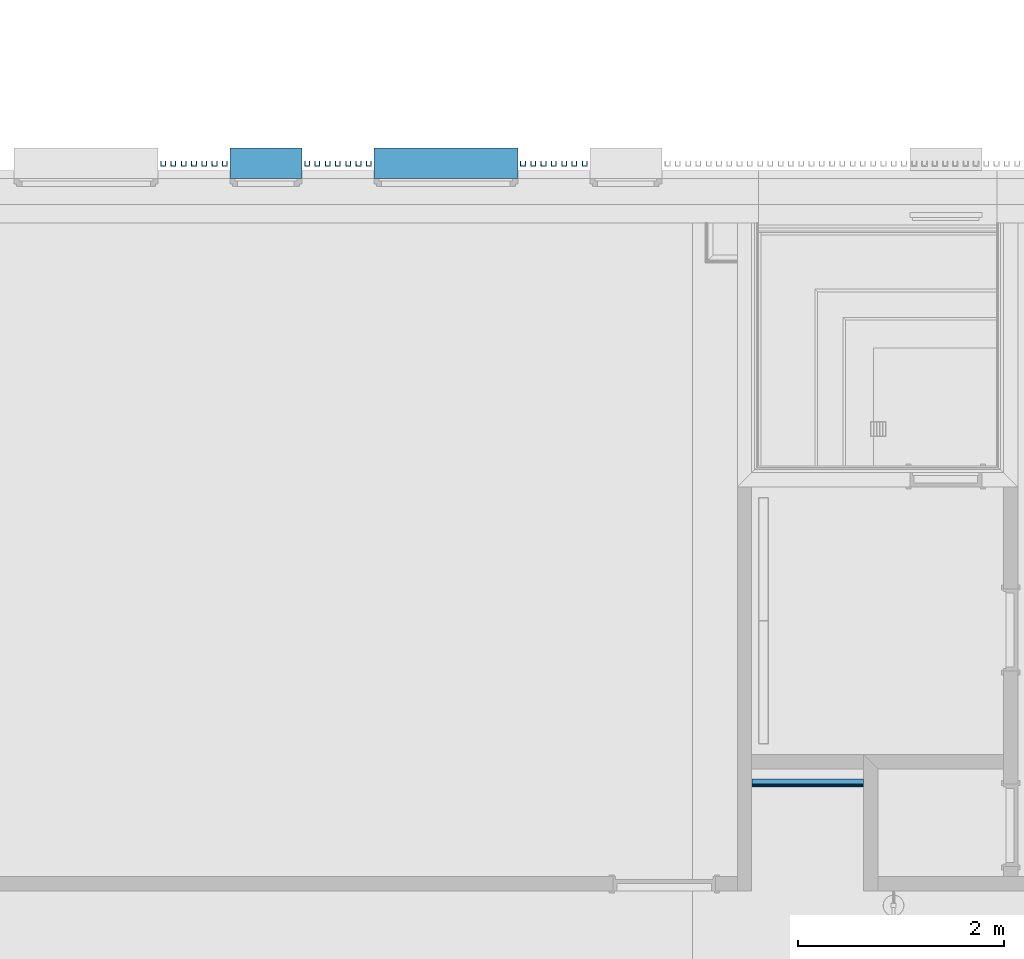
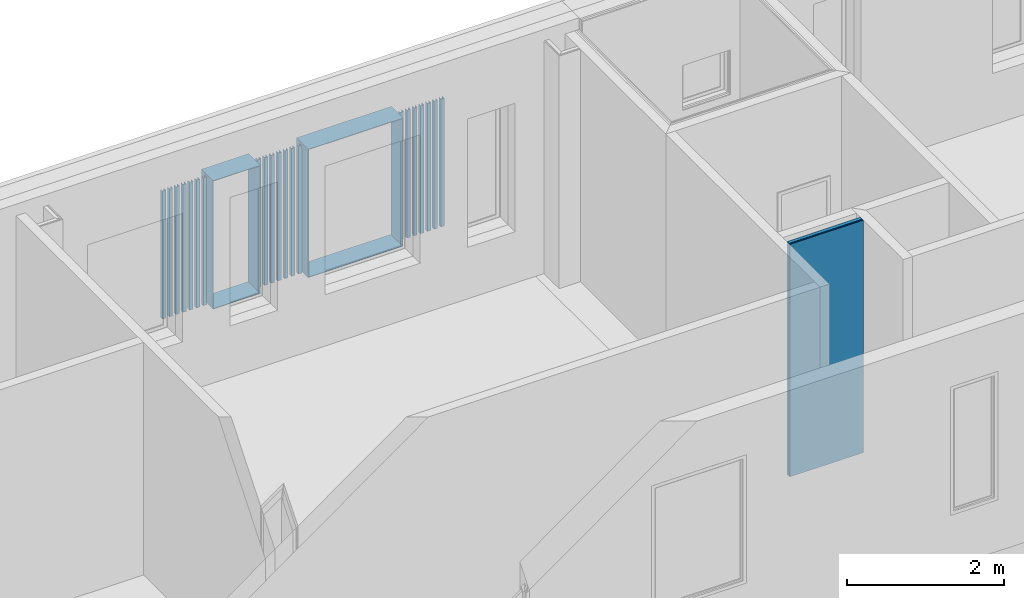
# One storey, part 26 of 100: 23 discrete accessories, 3 building element parts, 1 element without a shape of its own.
"""IFC2X3 building model written with IfcOpenShell, lengths in millimetres."""

from ifc_helpers import new_model, entity, si_unit, converted_unit, derived_unit, money_unit, direction, frame, origin_with_axes, place, context, subcontext, project, spatial, polyline, outline, extrude, faceted_brep, source, transform, mapped, material, type_object, element, aggregate, save


model = new_model("IFC2X3")

# Units and contexts
model_context = context("Model", 3, precision=0.01, world=origin_with_axes(), true_north=direction((0.0, 1.0)))
body_context = subcontext(model_context, "Body", "Model", "MODEL_VIEW")
ifc_project = project(units=[si_unit("LENGTHUNIT", "METRE", prefix="MILLI"), si_unit("AREAUNIT", "SQUARE_METRE"), si_unit("VOLUMEUNIT", "CUBIC_METRE"), converted_unit("PLANEANGLEUNIT", "DEGREE", entity("IfcPlaneAngleMeasure", 0.0174532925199), si_unit("PLANEANGLEUNIT", "RADIAN"), dimensions=[0, 0, 0, 0, 0, 0, 0]), si_unit("SOLIDANGLEUNIT", "STERADIAN"), money_unit("EUR"), converted_unit("TIMEUNIT", "Year", entity("IfcTimeMeasure", 31556926.0), si_unit("TIMEUNIT", "SECOND"), dimensions=[0, 0, 1, 0, 0, 0, 0]), si_unit("MASSUNIT", "GRAM", prefix="KILO"), si_unit("THERMODYNAMICTEMPERATUREUNIT", "DEGREE_CELSIUS"), si_unit("LUMINOUSINTENSITYUNIT", "LUMEN"), si_unit("ENERGYUNIT", "JOULE", prefix="MEGA"), derived_unit("THERMALCONDUCTANCEUNIT", [(si_unit("POWERUNIT", "WATT"), 1), (si_unit("LENGTHUNIT", "METRE"), -1), (si_unit("THERMODYNAMICTEMPERATUREUNIT", "KELVIN"), -1)]), derived_unit("SPECIFICHEATCAPACITYUNIT", [(si_unit("ENERGYUNIT", "JOULE"), 1), (si_unit("MASSUNIT", "GRAM", prefix="KILO"), -1), (si_unit("THERMODYNAMICTEMPERATUREUNIT", "KELVIN"), -1)]), derived_unit("MASSDENSITYUNIT", [(si_unit("MASSUNIT", "GRAM", prefix="KILO"), 1), (si_unit("VOLUMEUNIT", "CUBIC_METRE"), -1)])], contexts=[model_context])

# Site, building, storey
site_placement = place(None, origin_with_axes())
site = spatial("IfcSite", under=ifc_project, at=site_placement, Name="Politse- ja Piirivalveameti ning Päästeameti ühishoone", CompositionType="ELEMENT")
building_placement = place(site_placement, origin_with_axes())
building = spatial("IfcBuilding", under=site, at=building_placement, Name="Politse- ja Piirivalveameti ning Päästeameti ühishoone", CompositionType="ELEMENT")
storey_placement = place(building_placement, frame((0.0, 0.0, 3800.0), z_axis=(0.0, 0.0, 1.0), x_axis=(1.0, 0.0, 0.0)))
storey = spatial("IfcBuildingStorey", under=building, at=storey_placement, Name="Teine korrus", CompositionType="ELEMENT", Elevation=3800.0)

# Discrete accessories
ifc_material_1 = material(Name="SV-01_Krohv - Kips")
discrete_accessory_type_1 = type_object("IfcDiscreteAccessoryType", Name="Architrave 01 23")
shared_shape_1 = source(origin_with_axes(), body_context, "Body", "Brep", [
    faceted_brep([(350.0, 0.0, -10.0), (350.0, -300.182356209, -10.0), (-350.0, -300.182356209, -10.0), (-350.0, 0.0, -10.0), (340.0, 0.0, 0.0), (340.0, -300.182356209, 0.0), (-340.0, -300.182356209, 0.0), (-340.0, 0.0, 0.0)], [[[0, 1, 2, 3]], [[4, 5, 1, 0]], [[1, 5, 6, 2]], [[3, 2, 6, 7]], [[0, 3, 7, 4]], [[7, 6, 5, 4]]]),
    faceted_brep([(-350.0, 0.0, -10.0), (-350.0, -300.182356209, -10.0), (-350.0, -300.182356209, 1990.0), (-350.0, 0.0, 1990.0), (-340.0, 0.0, 0.0), (-340.0, -300.182356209, 0.0), (-340.0, -300.182356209, 1980.0), (-340.0, 0.0, 1980.0)], [[[0, 1, 2, 3]], [[4, 5, 1, 0]], [[1, 5, 6, 2]], [[3, 2, 6, 7]], [[0, 3, 7, 4]], [[7, 6, 5, 4]]]),
    faceted_brep([(-350.0, 0.0, 1990.0), (-350.0, -300.182356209, 1990.0), (350.0, -300.182356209, 1990.0), (350.0, 0.0, 1990.0), (-340.0, 0.0, 1980.0), (-340.0, -300.182356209, 1980.0), (340.0, -300.182356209, 1980.0), (340.0, 0.0, 1980.0)], [[[0, 1, 2, 3]], [[4, 5, 1, 0]], [[1, 5, 6, 2]], [[3, 2, 6, 7]], [[0, 3, 7, 4]], [[7, 6, 5, 4]]]),
    faceted_brep([(350.0, 0.0, 1990.0), (350.0, -300.182356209, 1990.0), (350.0, -300.182356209, -10.0), (350.0, 0.0, -10.0), (340.0, 0.0, 1980.0), (340.0, -300.182356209, 1980.0), (340.0, -300.182356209, 0.0), (340.0, 0.0, 0.0)], [[[0, 1, 2, 3]], [[4, 5, 1, 0]], [[1, 5, 6, 2]], [[3, 2, 6, 7]], [[0, 3, 7, 4]], [[7, 6, 5, 4]]]),
])
discrete_accessory_1_placement = place(storey_placement, frame((38459.1843169, 21429.9520832, 810.0), z_axis=(0.0, 0.0, 1.0), x_axis=(-1.0, 0.0, 0.0)))
element("IfcDiscreteAccessory", 1, at=discrete_accessory_1_placement, inside=storey, type_object=discrete_accessory_type_1, material=ifc_material_1, Name="AKNARAAM 01", context=body_context, shape_type="MappedRepresentation", body=[
    mapped(shared_shape_1, transform((0.0, 0.0, 0.0))),
])
shared_shape_2 = source(origin_with_axes(), body_context, "Body", "Brep", [
    faceted_brep([(700.0, 0.0, -10.0), (700.0, -300.182356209, -10.0), (-700.0, -300.182356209, -10.0), (-700.0, 0.0, -10.0), (690.0, 0.0, 0.0), (690.0, -300.182356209, 0.0), (-690.0, -300.182356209, 0.0), (-690.0, 0.0, 0.0)], [[[0, 1, 2, 3]], [[4, 5, 1, 0]], [[1, 5, 6, 2]], [[3, 2, 6, 7]], [[0, 3, 7, 4]], [[7, 6, 5, 4]]]),
    faceted_brep([(-700.0, 0.0, -10.0), (-700.0, -300.182356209, -10.0), (-700.0, -300.182356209, 1990.0), (-700.0, 0.0, 1990.0), (-690.0, 0.0, 0.0), (-690.0, -300.182356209, 0.0), (-690.0, -300.182356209, 1980.0), (-690.0, 0.0, 1980.0)], [[[0, 1, 2, 3]], [[4, 5, 1, 0]], [[1, 5, 6, 2]], [[3, 2, 6, 7]], [[0, 3, 7, 4]], [[7, 6, 5, 4]]]),
    faceted_brep([(-700.0, 0.0, 1990.0), (-700.0, -300.182356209, 1990.0), (700.0, -300.182356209, 1990.0), (700.0, 0.0, 1990.0), (-690.0, 0.0, 1980.0), (-690.0, -300.182356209, 1980.0), (690.0, -300.182356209, 1980.0), (690.0, 0.0, 1980.0)], [[[0, 1, 2, 3]], [[4, 5, 1, 0]], [[1, 5, 6, 2]], [[3, 2, 6, 7]], [[0, 3, 7, 4]], [[7, 6, 5, 4]]]),
    faceted_brep([(700.0, 0.0, 1990.0), (700.0, -300.182356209, 1990.0), (700.0, -300.182356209, -10.0), (700.0, 0.0, -10.0), (690.0, 0.0, 1980.0), (690.0, -300.182356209, 1980.0), (690.0, -300.182356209, 0.0), (690.0, 0.0, 0.0)], [[[0, 1, 2, 3]], [[4, 5, 1, 0]], [[1, 5, 6, 2]], [[3, 2, 6, 7]], [[0, 3, 7, 4]], [[7, 6, 5, 4]]]),
])
discrete_accessory_2_placement = place(storey_placement, frame((40209.1843169, 21429.9520832, 810.0), z_axis=(0.0, 0.0, 1.0), x_axis=(-1.0, 0.0, 0.0)))
element("IfcDiscreteAccessory", 2, at=discrete_accessory_2_placement, inside=storey, type_object=discrete_accessory_type_1, material=ifc_material_1, Name="AKNARAAM 01", context=body_context, shape_type="MappedRepresentation", body=[
    mapped(shared_shape_2, transform((0.0, 0.0, 0.0))),
])
ifc_material_2 = material(Name="ET-05_Teras")
discrete_accessory_type_2 = type_object("IfcDiscreteAccessoryType", Name="UAP Column 23")
shared_shape_3 = source(origin_with_axes(), body_context, "Body", "Brep", [
    faceted_brep([(-25.0, -25.0, 0.0), (-25.0, -25.0, 1990.0), (-25.0, -20.0, 1990.0), (-25.0, -20.0, 0.0), (25.0, -25.0, 0.0), (25.0, -25.0, 1990.0), (25.0, 25.0, 1990.0), (-25.0, 25.0, 1990.0), (-25.0, 20.0, 1990.0), (8.5, 20.0, 1990.0), (14.25, 18.4592921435, 1990.0), (18.4592921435, 14.25, 1990.0), (20.0, 8.5, 1990.0), (20.0, -8.5, 1990.0), (18.4592921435, -14.25, 1990.0), (14.25, -18.4592921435, 1990.0), (8.5, -20.0, 1990.0), (8.5, -20.0, 0.0), (14.25, -18.4592921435, 0.0), (18.4592921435, -14.25, 0.0), (20.0, -8.5, 0.0), (20.0, 8.5, 0.0), (18.4592921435, 14.25, 0.0), (14.25, 18.4592921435, 0.0), (8.5, 20.0, 0.0), (-25.0, 20.0, 0.0), (-25.0, 25.0, 0.0), (25.0, 25.0, 0.0)], [[[0, 1, 2, 3]], [[4, 5, 1, 0]], [[1, 5, 6, 7, 8, 9, 10, 11, 12, 13, 14, 15, 16, 2]], [[3, 2, 16, 17]], [[0, 3, 17, 18, 19, 20, 21, 22, 23, 24, 25, 26, 27, 4]], [[27, 6, 5, 4]], [[26, 7, 6, 27]], [[25, 8, 7, 26]], [[24, 9, 8, 25]], [[23, 10, 9, 24]], [[22, 11, 10, 23]], [[21, 12, 11, 22]], [[20, 13, 12, 21]], [[19, 14, 13, 20]], [[18, 15, 14, 19]], [[17, 16, 15, 18]]]),
])
for number, where, z_axis, x_axis in (
    (3, (37959.1843136, 21574.5960775, 810.000049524), (0.0, 0.0, 1.0), (1.30049800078e-07, -1.0, 0.0)),
    (4, (38059.1843136, 21574.5960905, 810.000049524), (0.0, 0.0, 1.0), (1.30049800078e-07, -1.0, 0.0)),
    (5, (37659.1843136, 21574.5960385, 810.000049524), (0.0, 0.0, 1.0), (1.30049800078e-07, -1.0, 0.0)),
    (6, (37759.1843136, 21574.5960515, 810.000049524), (0.0, 0.0, 1.0), (1.30049800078e-07, -1.0, 0.0)),
    (7, (37859.1843136, 21574.5960645, 810.000049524), (0.0, 0.0, 1.0), (1.30049800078e-07, -1.0, 0.0)),
    (8, (37459.1843136, 21574.5960125, 810.000049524), (0.0, 0.0, 1.0), (1.30049800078e-07, -1.0, 0.0)),
    (9, (37559.1843136, 21574.5960255, 810.000049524), (0.0, 0.0, 1.0), (1.30049800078e-07, -1.0, 0.0)),
    (10, (39359.1843136, 21574.5960775, 810.000049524), (0.0, 0.0, 1.0), (1.30049800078e-07, -1.0, 0.0)),
    (11, (39459.1843136, 21574.5960905, 810.000049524), (0.0, 0.0, 1.0), (1.30049800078e-07, -1.0, 0.0)),
    (12, (39059.1843136, 21574.5960385, 810.000049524), (0.0, 0.0, 1.0), (1.30049800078e-07, -1.0, 0.0)),
    (13, (39159.1843136, 21574.5960515, 810.000049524), (0.0, 0.0, 1.0), (1.30049800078e-07, -1.0, 0.0)),
    (14, (39259.1843136, 21574.5960645, 810.000049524), (0.0, 0.0, 1.0), (1.30049800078e-07, -1.0, 0.0)),
    (15, (38859.1843136, 21574.5960125, 810.000049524), (0.0, 0.0, 1.0), (1.30049800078e-07, -1.0, 0.0)),
    (16, (38959.1843136, 21574.5960255, 810.000049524), (0.0, 0.0, 1.0), (1.30049800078e-07, -1.0, 0.0)),
    (17, (41459.1843136, 21574.5960775, 810.000049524), (0.0, 0.0, 1.0), (1.30049800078e-07, -1.0, 0.0)),
    (18, (41559.1843136, 21574.5960905, 810.000049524), (0.0, 0.0, 1.0), (1.30049800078e-07, -1.0, 0.0)),
    (19, (41159.1843136, 21574.5960385, 810.000049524), (0.0, 0.0, 1.0), (1.30049800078e-07, -1.0, 0.0)),
    (20, (41259.1843136, 21574.5960515, 810.000049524), (0.0, 0.0, 1.0), (1.30049800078e-07, -1.0, 0.0)),
    (21, (41359.1843136, 21574.5960645, 810.000049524), (0.0, 0.0, 1.0), (1.30049800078e-07, -1.0, 0.0)),
    (22, (40959.1843136, 21574.5960125, 810.000049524), (0.0, 0.0, 1.0), (1.30049800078e-07, -1.0, 0.0)),
    (23, (41059.1843136, 21574.5960255, 810.000049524), (0.0, 0.0, 1.0), (1.30049800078e-07, -1.0, 0.0)),
):
    element("IfcDiscreteAccessory", number, at=place(storey_placement, frame(where, z_axis=z_axis, x_axis=x_axis)), inside=storey, type_object=discrete_accessory_type_2, material=ifc_material_2, Name="Fassaadiribid", context=body_context, shape_type="MappedRepresentation", body=[
        mapped(shared_shape_3, transform((0.0, 0.0, 0.0))),
    ])

# Wall, building element parts
wall_type = type_object("IfcWallType", Name="SS-13_kergsein 75 ümber el-kilbi 75", PredefinedType="NOTDEFINED")
wall_placement = place(storey_placement, frame((43183.4114692, 15515.0421528, 0.0), z_axis=(0.0, 0.0, 1.0), x_axis=(1.0, 0.0, 0.0)))
wall = element("IfcWall", 24, at=wall_placement, inside=storey, type_object=wall_type, Name="SS-21")
ifc_material_3 = material(Name="Õhkvahe - Raam")
building_element_part_1_placement = place(wall_placement, origin_with_axes())
building_element_part_1 = element("IfcBuildingElementPart", 25, at=building_element_part_1_placement, material=ifc_material_3, Name="Õhkvahe - Raam", context=body_context, shape_type="SweptSolid", body=[
    extrude(outline(polyline([(5.0, 25.0), (1087.08512967, 25.0), (1087.08512967, 75.0), (5.0, 75.0), (5.0, 25.0)])), origin_with_axes(), (0.0, 0.0, 1.0), 3620.0),
])
ifc_material_4 = material(Name="SKR-02_Kipsplaat")
building_element_part_2_placement = place(wall_placement, origin_with_axes())
building_element_part_2 = element("IfcBuildingElementPart", 26, at=building_element_part_2_placement, material=ifc_material_4, Name="SKR-02_Kipsplaat", context=body_context, shape_type="SweptSolid", body=[
    extrude(outline(polyline([(5.0, 12.0), (1087.08512967, 12.0), (1087.08512967, 25.0), (5.0, 25.0), (5.0, 12.0)])), origin_with_axes(), (0.0, 0.0, 1.0), 3620.0),
])
building_element_part_3_placement = place(wall_placement, origin_with_axes())
building_element_part_3 = element("IfcBuildingElementPart", 27, at=building_element_part_3_placement, material=ifc_material_4, Name="SKR-02_Kipsplaat", context=body_context, shape_type="SweptSolid", body=[
    extrude(outline(polyline([(5.0, 0.0), (1087.08512967, 0.0), (1087.08512967, 12.0), (5.0, 12.0), (5.0, 0.0)])), origin_with_axes(), (0.0, 0.0, 1.0), 3620.0),
])
aggregate(wall, [building_element_part_1, building_element_part_2, building_element_part_3])

save(model, "model.ifc")
